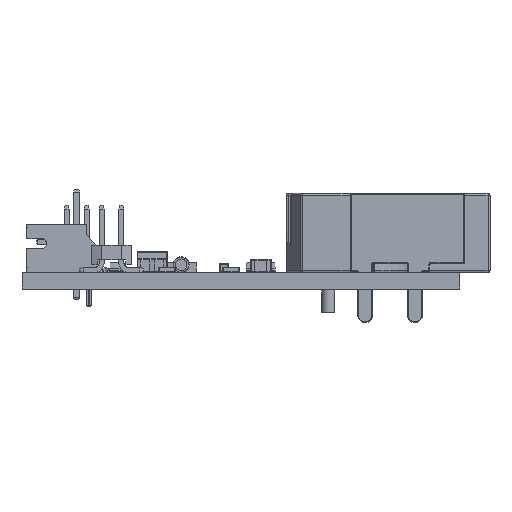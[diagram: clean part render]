
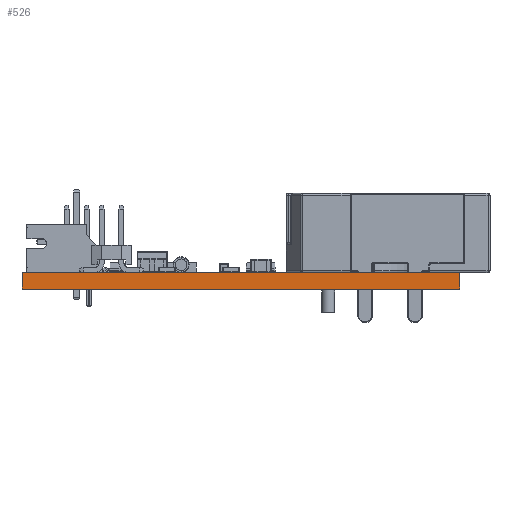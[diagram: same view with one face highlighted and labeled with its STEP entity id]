
A CAD part, front view. The second image highlights one B-rep face of the part: STEP entity #526.
In plain terms, the highlighted planar face has unit normal (0, -1, 0).
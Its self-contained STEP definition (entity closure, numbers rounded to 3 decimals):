
#263 = EDGE_CURVE('',#264,#266,#268,.T.);
#264 = VERTEX_POINT('',#265);
#265 = CARTESIAN_POINT('',(0.,0.,0.));
#266 = VERTEX_POINT('',#267);
#267 = CARTESIAN_POINT('',(0.,0.,1.646));
#268 = SURFACE_CURVE('',#269,(#273,#285),.PCURVE_S1.);
#269 = LINE('',#270,#271);
#270 = CARTESIAN_POINT('',(0.,0.,0.));
#271 = VECTOR('',#272,1.);
#272 = DIRECTION('',(0.,0.,1.));
#273 = PCURVE('',#274,#279);
#274 = PLANE('',#275);
#275 = AXIS2_PLACEMENT_3D('',#276,#277,#278);
#276 = CARTESIAN_POINT('',(0.,0.,0.));
#277 = DIRECTION('',(-1.,0.,0.));
#278 = DIRECTION('',(0.,1.,0.));
#279 = DEFINITIONAL_REPRESENTATION('',(#280),#284);
#280 = LINE('',#281,#282);
#281 = CARTESIAN_POINT('',(0.,0.));
#282 = VECTOR('',#283,1.);
#283 = DIRECTION('',(0.,-1.));
#284 = ( GEOMETRIC_REPRESENTATION_CONTEXT(2) 
PARAMETRIC_REPRESENTATION_CONTEXT() REPRESENTATION_CONTEXT('2D SPACE',''
  ) );
#285 = PCURVE('',#286,#291);
#286 = PLANE('',#287);
#287 = AXIS2_PLACEMENT_3D('',#288,#289,#290);
#288 = CARTESIAN_POINT('',(44.,0.,0.));
#289 = DIRECTION('',(0.,-1.,0.));
#290 = DIRECTION('',(-1.,0.,0.));
#291 = DEFINITIONAL_REPRESENTATION('',(#292),#296);
#292 = LINE('',#293,#294);
#293 = CARTESIAN_POINT('',(44.,0.));
#294 = VECTOR('',#295,1.);
#295 = DIRECTION('',(0.,-1.));
#296 = ( GEOMETRIC_REPRESENTATION_CONTEXT(2) 
PARAMETRIC_REPRESENTATION_CONTEXT() REPRESENTATION_CONTEXT('2D SPACE',''
  ) );
#314 = PLANE('',#315);
#315 = AXIS2_PLACEMENT_3D('',#316,#317,#318);
#316 = CARTESIAN_POINT('',(0.,0.,1.646));
#317 = DIRECTION('',(0.,0.,1.));
#318 = DIRECTION('',(1.,0.,-0.));
#368 = PLANE('',#369);
#369 = AXIS2_PLACEMENT_3D('',#370,#371,#372);
#370 = CARTESIAN_POINT('',(0.,0.,0.));
#371 = DIRECTION('',(0.,0.,1.));
#372 = DIRECTION('',(1.,0.,-0.));
#423 = PLANE('',#424);
#424 = AXIS2_PLACEMENT_3D('',#425,#426,#427);
#425 = CARTESIAN_POINT('',(44.,106.3,0.));
#426 = DIRECTION('',(1.,0.,-0.));
#427 = DIRECTION('',(0.,-1.,0.));
#461 = VERTEX_POINT('',#462);
#462 = CARTESIAN_POINT('',(44.,0.,1.646));
#483 = EDGE_CURVE('',#484,#461,#486,.T.);
#484 = VERTEX_POINT('',#485);
#485 = CARTESIAN_POINT('',(44.,0.,0.));
#486 = SURFACE_CURVE('',#487,(#491,#498),.PCURVE_S1.);
#487 = LINE('',#488,#489);
#488 = CARTESIAN_POINT('',(44.,0.,0.));
#489 = VECTOR('',#490,1.);
#490 = DIRECTION('',(0.,0.,1.));
#491 = PCURVE('',#423,#492);
#492 = DEFINITIONAL_REPRESENTATION('',(#493),#497);
#493 = LINE('',#494,#495);
#494 = CARTESIAN_POINT('',(106.3,0.));
#495 = VECTOR('',#496,1.);
#496 = DIRECTION('',(0.,-1.));
#497 = ( GEOMETRIC_REPRESENTATION_CONTEXT(2) 
PARAMETRIC_REPRESENTATION_CONTEXT() REPRESENTATION_CONTEXT('2D SPACE',''
  ) );
#498 = PCURVE('',#286,#499);
#499 = DEFINITIONAL_REPRESENTATION('',(#500),#504);
#500 = LINE('',#501,#502);
#501 = CARTESIAN_POINT('',(0.,0.));
#502 = VECTOR('',#503,1.);
#503 = DIRECTION('',(0.,-1.));
#504 = ( GEOMETRIC_REPRESENTATION_CONTEXT(2) 
PARAMETRIC_REPRESENTATION_CONTEXT() REPRESENTATION_CONTEXT('2D SPACE',''
  ) );
#526 = ADVANCED_FACE('',(#527),#286,.T.);
#527 = FACE_BOUND('',#528,.T.);
#528 = EDGE_LOOP('',(#529,#530,#551,#552));
#529 = ORIENTED_EDGE('',*,*,#483,.T.);
#530 = ORIENTED_EDGE('',*,*,#531,.T.);
#531 = EDGE_CURVE('',#461,#266,#532,.T.);
#532 = SURFACE_CURVE('',#533,(#537,#544),.PCURVE_S1.);
#533 = LINE('',#534,#535);
#534 = CARTESIAN_POINT('',(44.,0.,1.646));
#535 = VECTOR('',#536,1.);
#536 = DIRECTION('',(-1.,0.,0.));
#537 = PCURVE('',#286,#538);
#538 = DEFINITIONAL_REPRESENTATION('',(#539),#543);
#539 = LINE('',#540,#541);
#540 = CARTESIAN_POINT('',(0.,-1.646));
#541 = VECTOR('',#542,1.);
#542 = DIRECTION('',(1.,0.));
#543 = ( GEOMETRIC_REPRESENTATION_CONTEXT(2) 
PARAMETRIC_REPRESENTATION_CONTEXT() REPRESENTATION_CONTEXT('2D SPACE',''
  ) );
#544 = PCURVE('',#314,#545);
#545 = DEFINITIONAL_REPRESENTATION('',(#546),#550);
#546 = LINE('',#547,#548);
#547 = CARTESIAN_POINT('',(44.,0.));
#548 = VECTOR('',#549,1.);
#549 = DIRECTION('',(-1.,0.));
#550 = ( GEOMETRIC_REPRESENTATION_CONTEXT(2) 
PARAMETRIC_REPRESENTATION_CONTEXT() REPRESENTATION_CONTEXT('2D SPACE',''
  ) );
#551 = ORIENTED_EDGE('',*,*,#263,.F.);
#552 = ORIENTED_EDGE('',*,*,#553,.F.);
#553 = EDGE_CURVE('',#484,#264,#554,.T.);
#554 = SURFACE_CURVE('',#555,(#559,#566),.PCURVE_S1.);
#555 = LINE('',#556,#557);
#556 = CARTESIAN_POINT('',(44.,0.,0.));
#557 = VECTOR('',#558,1.);
#558 = DIRECTION('',(-1.,0.,0.));
#559 = PCURVE('',#286,#560);
#560 = DEFINITIONAL_REPRESENTATION('',(#561),#565);
#561 = LINE('',#562,#563);
#562 = CARTESIAN_POINT('',(0.,0.));
#563 = VECTOR('',#564,1.);
#564 = DIRECTION('',(1.,0.));
#565 = ( GEOMETRIC_REPRESENTATION_CONTEXT(2) 
PARAMETRIC_REPRESENTATION_CONTEXT() REPRESENTATION_CONTEXT('2D SPACE',''
  ) );
#566 = PCURVE('',#368,#567);
#567 = DEFINITIONAL_REPRESENTATION('',(#568),#572);
#568 = LINE('',#569,#570);
#569 = CARTESIAN_POINT('',(44.,0.));
#570 = VECTOR('',#571,1.);
#571 = DIRECTION('',(-1.,0.));
#572 = ( GEOMETRIC_REPRESENTATION_CONTEXT(2) 
PARAMETRIC_REPRESENTATION_CONTEXT() REPRESENTATION_CONTEXT('2D SPACE',''
  ) );
